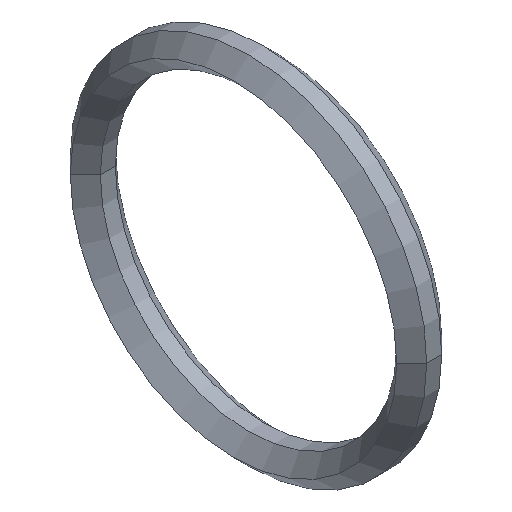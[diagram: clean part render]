
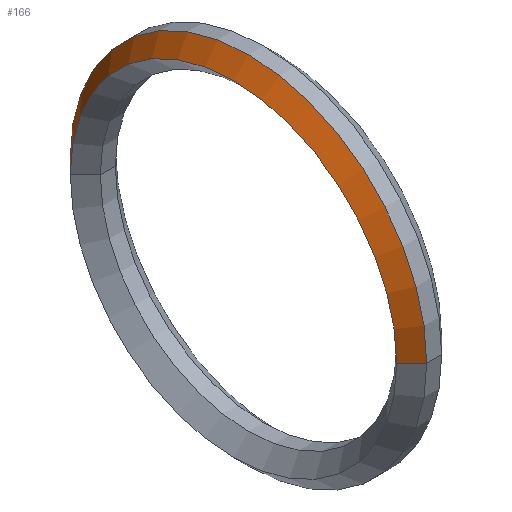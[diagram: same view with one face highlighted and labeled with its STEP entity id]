
A CAD part, isometric view. The second image highlights one B-rep face of the part: STEP entity #166.
In plain terms, the highlighted conical face has half-angle 45 degrees and reference radius 17.05 mm.
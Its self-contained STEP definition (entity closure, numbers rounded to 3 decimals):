
#125=CARTESIAN_POINT('',(-1.5,0.0,0.0));
#126=DIRECTION('',(1.0,0.0,0.0));
#127=DIRECTION('',(0.0,1.0,0.0));
#128=AXIS2_PLACEMENT_3D('',#125,#126,#127);
#129=CONICAL_SURFACE('',#128,17.05,45.);
#130=CARTESIAN_POINT('',(-2.25,16.3,0.0));
#131=VERTEX_POINT('',#130);
#132=CARTESIAN_POINT('',(-0.75,17.8,0.0));
#133=VERTEX_POINT('',#132);
#134=CARTESIAN_POINT('',(-2.25,16.3,0.0));
#135=DIRECTION('',(0.707,0.707,0.0));
#136=VECTOR('',#135,2.121);
#137=LINE('',#134,#136);
#138=EDGE_CURVE('',#131,#133,#137,.T.);
#139=ORIENTED_EDGE('',*,*,#138,.F.);
#140=CARTESIAN_POINT('',(-2.25,-16.3,0.));
#141=VERTEX_POINT('',#140);
#142=CARTESIAN_POINT('',(-2.25,0.0,0.0));
#143=DIRECTION('',(1.0,0.0,0.0));
#144=DIRECTION('',(0.0,1.0,0.0));
#145=AXIS2_PLACEMENT_3D('',#142,#143,#144);
#146=CIRCLE('',#145,16.3);
#147=EDGE_CURVE('',#131,#141,#146,.T.);
#148=ORIENTED_EDGE('',*,*,#147,.T.);
#149=CARTESIAN_POINT('',(-0.75,-17.8,0.));
#150=VERTEX_POINT('',#149);
#151=CARTESIAN_POINT('',(-0.75,-17.8,0.));
#152=DIRECTION('',(-0.707,0.707,0.));
#153=VECTOR('',#152,2.121);
#154=LINE('',#151,#153);
#155=EDGE_CURVE('',#150,#141,#154,.T.);
#156=ORIENTED_EDGE('',*,*,#155,.F.);
#157=CARTESIAN_POINT('',(-0.75,0.0,0.0));
#158=DIRECTION('',(1.0,0.0,0.0));
#159=DIRECTION('',(0.0,1.0,0.0));
#160=AXIS2_PLACEMENT_3D('',#157,#158,#159);
#161=CIRCLE('',#160,17.8);
#162=EDGE_CURVE('',#133,#150,#161,.T.);
#163=ORIENTED_EDGE('',*,*,#162,.F.);
#164=EDGE_LOOP('',(#139,#148,#156,#163));
#165=FACE_OUTER_BOUND('',#164,.T.);
#166=ADVANCED_FACE('',(#165),#129,.T.);
